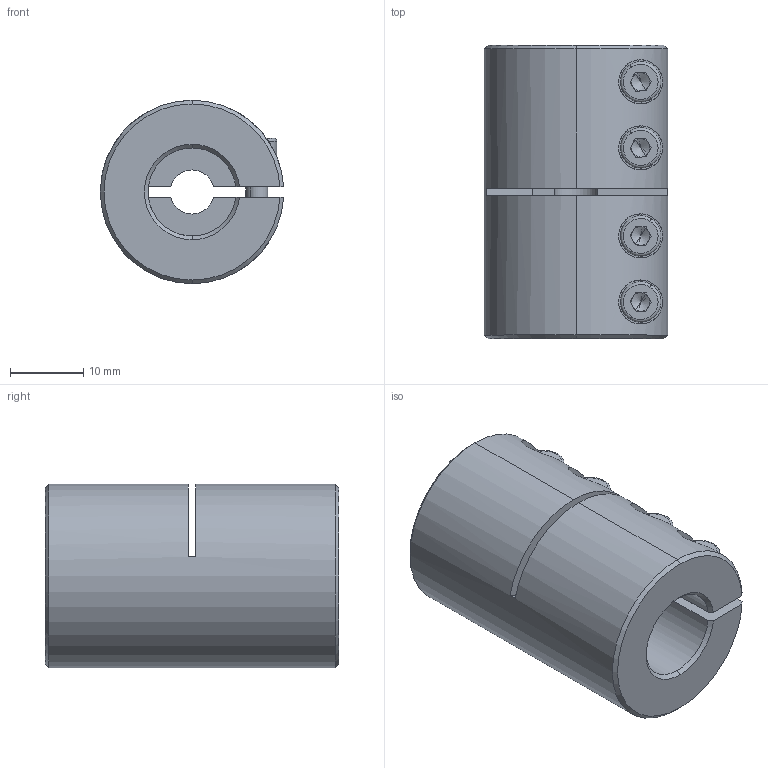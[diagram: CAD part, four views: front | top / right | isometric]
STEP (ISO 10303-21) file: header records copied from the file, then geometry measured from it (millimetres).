
FILE_DESCRIPTION (( 'STEP AP214' ), '1' );
FILE_NAME ('LL-B-D25L40-6-12½¨Ä£.STEP', '2022-07-21T05:10:49', ( '' ), ( '' ), 'SwSTEP 2.0', 'SolidWorks 2022', '' );
FILE_SCHEMA (( 'AUTOMOTIVE_DESIGN' ));
Length unit declared in the file: millimetre
Products named in the file (1): LL-B-D25L40-6-12膘耀
Bounding box: 24.98 x 40 x 25 mm (x, y, z)
Volume: 15832.8 mm3; surface area: 7191.1 mm2
Topology: 1 solids, 1 shells, 178 faces, 454 edges, 286 vertices
Faces by surface type: plane 85, cylinder 65, cone 20, torus 8
Entity records: 5830 total; most frequent: CARTESIAN_POINT 1438, DIRECTION 944, ORIENTED_EDGE 892, EDGE_CURVE 446, AXIS2_PLACEMENT_3D 364, VERTEX_POINT 286, VECTOR 216, LINE 216
